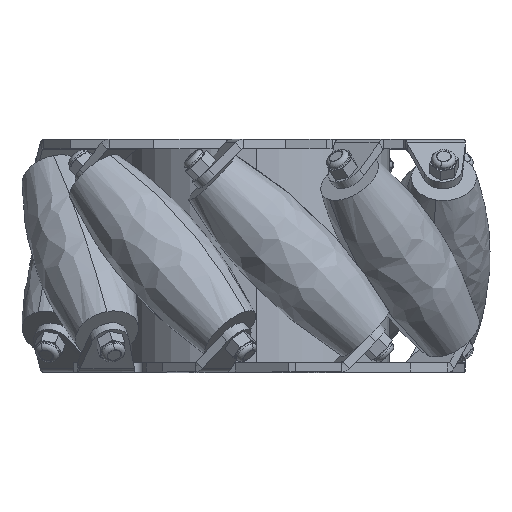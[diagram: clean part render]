
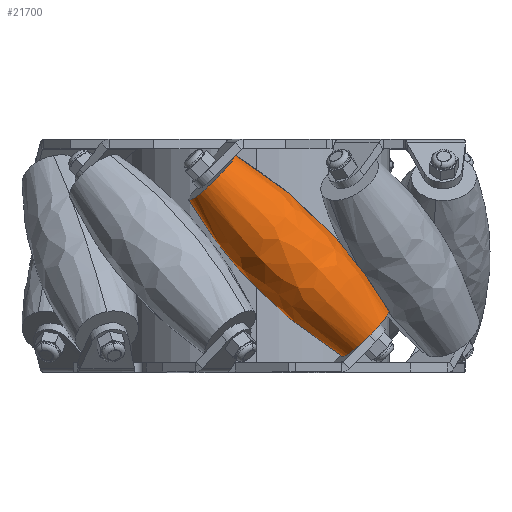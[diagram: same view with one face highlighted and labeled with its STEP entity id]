
A CAD part, top view. The second image highlights one B-rep face of the part: STEP entity #21700.
In plain terms, the highlighted free-form (B-spline) face has degree [3, 2] with [7, 9] control points.
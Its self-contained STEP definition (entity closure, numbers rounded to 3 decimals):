
#20194=CARTESIAN_POINT('',(18.524,1.353,35.866));
#20195=VERTEX_POINT('',#20194);
#20196=CARTESIAN_POINT('',(28.536,10.906,37.631));
#20197=VERTEX_POINT('',#20196);
#20205=CARTESIAN_POINT('',(23.53,6.129,36.748));
#20206=DIRECTION('',(0.718,0.685,0.127));
#20207=DIRECTION('',(0.696,-0.707,-0.123));
#20208=AXIS2_PLACEMENT_3D('',#20205,#20207,#20206);
#20209=CIRCLE('',#20208,6.975);
#20210=EDGE_CURVE('',#20197,#20195,#20209,.T.);
#21593=CARTESIAN_POINT('',(-14.553,34.94,41.698));
#21594=VERTEX_POINT('',#21593);
#21595=CARTESIAN_POINT('',(-4.542,44.493,43.463));
#21596=VERTEX_POINT('',#21595);
#21604=CARTESIAN_POINT('',(-4.542,44.493,43.463));
#21605=CARTESIAN_POINT('',(2.419,40.276,42.747));
#21606=CARTESIAN_POINT('',(14.892,30.461,41.058));
#21607=CARTESIAN_POINT('',(24.47,17.884,38.858));
#21608=CARTESIAN_POINT('',(28.536,10.906,37.631));
#21609=B_SPLINE_CURVE_WITH_KNOTS('',3,(#21604,#21605,#21606,#21607,#21608),.UNSPECIFIED.,.F.,.U.,(4,1,4),(0.,0.5,1.),.UNSPECIFIED.);
#21610=EDGE_CURVE('',#21596,#20197,#21609,.T.);
#21613=CARTESIAN_POINT('',(18.524,1.353,35.866));
#21614=CARTESIAN_POINT('',(11.564,5.57,36.583));
#21615=CARTESIAN_POINT('',(-0.909,15.384,38.272));
#21616=CARTESIAN_POINT('',(-10.487,27.961,40.471));
#21617=CARTESIAN_POINT('',(-14.553,34.94,41.698));
#21618=B_SPLINE_CURVE_WITH_KNOTS('',3,(#21613,#21614,#21615,#21616,#21617),.UNSPECIFIED.,.F.,.U.,(4,1,4),(0.,0.5,1.),.UNSPECIFIED.);
#21619=EDGE_CURVE('',#20195,#21594,#21618,.T.);
#21624=CARTESIAN_POINT('',(-4.951,44.74,43.505));
#21625=CARTESIAN_POINT('',(-4.914,45.948,36.757));
#21626=CARTESIAN_POINT('',(-9.834,41.254,35.89));
#21627=CARTESIAN_POINT('',(-14.754,36.559,35.022));
#21628=CARTESIAN_POINT('',(-14.791,35.351,41.77));
#21629=CARTESIAN_POINT('',(-14.828,34.143,48.518));
#21630=CARTESIAN_POINT('',(-9.908,38.837,49.386));
#21631=CARTESIAN_POINT('',(-4.988,43.532,50.253));
#21632=CARTESIAN_POINT('',(-4.951,44.74,43.505));
#21633=CARTESIAN_POINT('',(-4.814,44.658,43.491));
#21634=CARTESIAN_POINT('',(-4.777,45.873,36.704));
#21635=CARTESIAN_POINT('',(-9.726,41.151,35.831));
#21636=CARTESIAN_POINT('',(-14.675,36.429,34.959));
#21637=CARTESIAN_POINT('',(-14.712,35.214,41.746));
#21638=CARTESIAN_POINT('',(-14.749,33.998,48.534));
#21639=CARTESIAN_POINT('',(-9.8,38.721,49.407));
#21640=CARTESIAN_POINT('',(-4.852,43.443,50.279));
#21641=CARTESIAN_POINT('',(-4.814,44.658,43.491));
#21642=CARTESIAN_POINT('',(2.296,40.372,42.763));
#21643=CARTESIAN_POINT('',(2.345,41.953,33.932));
#21644=CARTESIAN_POINT('',(-4.094,35.81,32.796));
#21645=CARTESIAN_POINT('',(-10.533,29.666,31.661));
#21646=CARTESIAN_POINT('',(-10.581,28.084,40.492));
#21647=CARTESIAN_POINT('',(-10.63,26.503,49.324));
#21648=CARTESIAN_POINT('',(-4.191,32.647,50.459));
#21649=CARTESIAN_POINT('',(2.248,38.791,51.594));
#21650=CARTESIAN_POINT('',(2.296,40.372,42.763));
#21651=CARTESIAN_POINT('',(14.892,30.461,41.058));
#21652=CARTESIAN_POINT('',(14.951,32.401,30.222));
#21653=CARTESIAN_POINT('',(7.051,24.863,28.829));
#21654=CARTESIAN_POINT('',(-0.85,17.325,27.436));
#21655=CARTESIAN_POINT('',(-0.909,15.384,38.272));
#21656=CARTESIAN_POINT('',(-0.968,13.444,49.107));
#21657=CARTESIAN_POINT('',(6.932,20.983,50.5));
#21658=CARTESIAN_POINT('',(14.832,28.521,51.894));
#21659=CARTESIAN_POINT('',(14.892,30.461,41.058));
#21660=CARTESIAN_POINT('',(24.564,17.761,38.837));
#21661=CARTESIAN_POINT('',(24.612,19.342,30.005));
#21662=CARTESIAN_POINT('',(18.174,13.199,28.87));
#21663=CARTESIAN_POINT('',(11.735,7.055,27.735));
#21664=CARTESIAN_POINT('',(11.686,5.473,36.566));
#21665=CARTESIAN_POINT('',(11.638,3.892,45.397));
#21666=CARTESIAN_POINT('',(18.077,10.036,46.533));
#21667=CARTESIAN_POINT('',(24.516,16.18,47.668));
#21668=CARTESIAN_POINT('',(24.564,17.761,38.837));
#21669=CARTESIAN_POINT('',(28.695,10.632,37.583));
#21670=CARTESIAN_POINT('',(28.732,11.847,30.795));
#21671=CARTESIAN_POINT('',(23.783,7.125,29.923));
#21672=CARTESIAN_POINT('',(18.835,2.403,29.05));
#21673=CARTESIAN_POINT('',(18.797,1.188,35.838));
#21674=CARTESIAN_POINT('',(18.76,-0.028,42.625));
#21675=CARTESIAN_POINT('',(23.709,4.694,43.498));
#21676=CARTESIAN_POINT('',(28.658,9.416,44.37));
#21677=CARTESIAN_POINT('',(28.695,10.632,37.583));
#21678=CARTESIAN_POINT('',(28.774,10.494,37.559));
#21679=CARTESIAN_POINT('',(28.811,11.703,30.811));
#21680=CARTESIAN_POINT('',(23.891,7.008,29.943));
#21681=CARTESIAN_POINT('',(18.971,2.314,29.076));
#21682=CARTESIAN_POINT('',(18.934,1.106,35.824));
#21683=CARTESIAN_POINT('',(18.897,-0.103,42.572));
#21684=CARTESIAN_POINT('',(23.817,4.592,43.439));
#21685=CARTESIAN_POINT('',(28.737,9.286,44.307));
#21686=CARTESIAN_POINT('',(28.774,10.494,37.559));
#21687=(BOUNDED_SURFACE()B_SPLINE_SURFACE(3,2,((#21624,#21625,#21626,#21627,#21628,#21629,#21630,#21631,#21632),(#21633,#21634,#21635,#21636,#21637,#21638,#21639,#21640,#21641),(#21642,#21643,#21644,#21645,#21646,#21647,#21648,#21649,#21650),(#21651,#21652,#21653,#21654,#21655,#21656,#21657,#21658,#21659),(#21660,#21661,#21662,#21663,#21664,#21665,#21666,#21667,#21668),(#21669,#21670,#21671,#21672,#21673,#21674,#21675,#21676,#21677),(#21678,#21679,#21680,#21681,#21682,#21683,#21684,#21685,#21686)),.UNSPECIFIED.,.F.,.T.,.U.)B_SPLINE_SURFACE_WITH_KNOTS((4,1,1,1,4),(3,2,2,2,3),(0.,0.01,0.5,0.99,1.),(0.,0.25,0.5,0.75,1.),.UNSPECIFIED.)GEOMETRIC_REPRESENTATION_ITEM()RATIONAL_B_SPLINE_SURFACE(((1.,0.707,1.,0.707,1.,0.707,1.,0.707,1.),(1.,0.707,1.,0.707,1.,0.707,1.,0.707,1.),(1.,0.707,1.,0.707,1.,0.707,1.,0.707,1.),(1.,0.707,1.,0.707,1.,0.707,1.,0.707,1.),(1.,0.707,1.,0.707,1.,0.707,1.,0.707,1.),(1.,0.707,1.,0.707,1.,0.707,1.,0.707,1.),(1.,0.707,1.,0.707,1.,0.707,1.,0.707,1.)))REPRESENTATION_ITEM('')SURFACE());
#21688=ORIENTED_EDGE('',*,*,#20210,.F.);
#21689=ORIENTED_EDGE('',*,*,#21610,.F.);
#21690=CARTESIAN_POINT('',(-9.547,39.717,42.581));
#21691=DIRECTION('',(0.718,0.685,0.127));
#21692=DIRECTION('',(0.696,-0.707,-0.123));
#21693=AXIS2_PLACEMENT_3D('',#21690,#21692,#21691);
#21694=CIRCLE('',#21693,6.975);
#21695=EDGE_CURVE('',#21596,#21594,#21694,.T.);
#21696=ORIENTED_EDGE('',*,*,#21695,.T.);
#21697=ORIENTED_EDGE('',*,*,#21619,.F.);
#21698=EDGE_LOOP('',(#21688,#21689,#21696,#21697));
#21699=FACE_OUTER_BOUND('',#21698,.T.);
#21700=ADVANCED_FACE('',(#21699),#21687,.T.);
